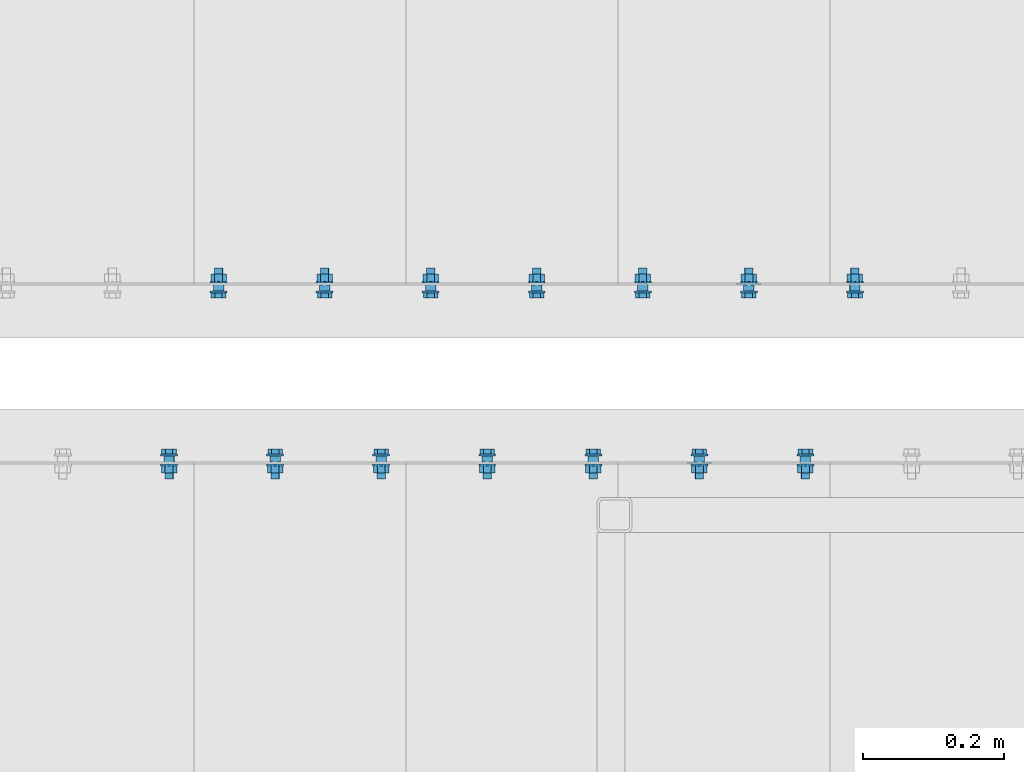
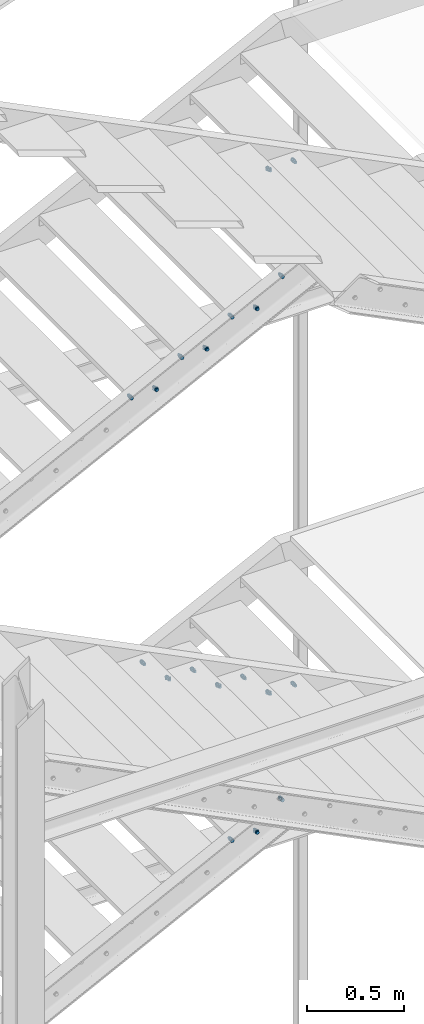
# One storey, part 105 of 132: 19 mechanical fasteners, 11 elements without a shape of their own.
"""IFC2X3 building model written with IfcOpenShell, lengths in millimetres."""

from ifc_helpers import new_model, si_unit, frame, frame_2d, origin_with_axes, origin_2d_with_axis, place, context, subcontext, project, spatial, polyline, circle_curve, parameter, trimmed, segment, composite_curve, circle, outline, extrude, source, transform, mapped, material, type_object, element, aggregate, save


model = new_model("IFC2X3")

# Units and contexts
model_context = context("Model", 3, precision=1e-05, world=origin_with_axes())
body_context = subcontext(model_context, "Body", "Model", "MODEL_VIEW")
ifc_project = project(units=[si_unit("LENGTHUNIT", "METRE", prefix="MILLI"), si_unit("AREAUNIT", "SQUARE_METRE"), si_unit("VOLUMEUNIT", "CUBIC_METRE"), si_unit("MASSUNIT", "GRAM", prefix="KILO"), si_unit("TIMEUNIT", "SECOND"), si_unit("PLANEANGLEUNIT", "RADIAN"), si_unit("SOLIDANGLEUNIT", "STERADIAN"), si_unit("THERMODYNAMICTEMPERATUREUNIT", "DEGREE_CELSIUS"), si_unit("LUMINOUSINTENSITYUNIT", "LUMEN")], contexts=[model_context])

# Site, building, storey
site_placement = place(None, origin_with_axes())
site = spatial("IfcSite", under=ifc_project, at=site_placement, Name="Budowa", CompositionType="ELEMENT")
building_placement = place(site_placement, origin_with_axes())
building = spatial("IfcBuilding", under=site, at=building_placement, Name="Undefined", CompositionType="ELEMENT")
storey_placement = place(building_placement, origin_with_axes())
storey = spatial("IfcBuildingStorey", under=building, at=storey_placement, Name="Undefined", CompositionType="ELEMENT", Elevation=0.0)

# Assembly, mechanical fastener
assembly_1_placement = place(storey_placement, origin_with_axes())
assembly_1 = element("IfcElementAssembly", 1, at=assembly_1_placement, inside=storey, Name="Steel Assembly", AssemblyPlace="NOTDEFINED", PredefinedType="RIGID_FRAME")
ifc_material = material(Name="Undefined")
discrete_accessory_type = type_object("IfcDiscreteAccessoryType", Name="Bolt assembly")
shared_shape_1 = source(origin_with_axes(), body_context, "Body", "SweptSolid", [
    extrude(circle(Radius=7.5, at=origin_2d_with_axis()), frame((0.0, -8.40000000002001, 0.0), z_axis=(0.0, 1.0, 0.0), x_axis=(1.0, 0.0, 0.0)), (0.0, 0.0, 1.0), 8.5),
    extrude(circle(Radius=7.5, at=origin_2d_with_axis()), frame((0.0, -0.1, 0.0), z_axis=(0.0, 1.0, 0.0), x_axis=(1.0, 0.0, 0.0)), (0.0, 0.0, 1.0), 3.1),
    extrude(outline(polyline([(10.39230484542, 0.0), (5.19615242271, 9.00000000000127), (-5.19615242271, 9.00000000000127), (-10.39230484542, 0.0), (-5.19615242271, -9.00000000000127), (5.19615242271, -9.00000000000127), (10.39230484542, 0.0)])), frame((0.0, -18.50000000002, 0.0), z_axis=(0.0, 1.0, 0.0), x_axis=(1.0, 0.0, 0.0)), (0.0, 0.0, 1.0), 7.5),
    extrude(circle(Radius=6.0, at=origin_2d_with_axis()), frame((0.0, -11.00000000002, 0.0), z_axis=(0.0, 1.0, 0.0), x_axis=(1.0, 0.0, 0.0)), (0.0, 0.0, 1.0), 35.0),
    extrude(circle(Radius=12.0, at=origin_2d_with_axis()), frame((0.0, -11.00000000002, 0.0), z_axis=(0.0, 1.0, 0.0), x_axis=(1.0, 0.0, 0.0)), (0.0, 0.0, 1.0), 2.5),
    extrude(circle(Radius=12.0, at=origin_2d_with_axis()), frame((0.0, 3.0, 0.0), z_axis=(0.0, 1.0, 0.0), x_axis=(1.0, 0.0, 0.0)), (0.0, 0.0, 1.0), 2.5),
    extrude(outline(polyline([(10.96965511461, 0.0), (5.484827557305, 9.50000000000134), (-5.484827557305, 9.50000000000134), (-10.96965511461, 0.0), (-5.484827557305, -9.50000000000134), (5.484827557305, -9.50000000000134), (10.96965511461, 0.0)])), frame((0.0, 5.5, 0.0), z_axis=(0.0, 1.0, 0.0), x_axis=(1.0, 0.0, 0.0)), (0.0, 0.0, 1.0), 10.0),
])
mechanical_fastener_1_placement = place(assembly_1_placement, frame((-2020.00000007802, 9275.00000004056, 11150.0000000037), z_axis=(0.0, 0.0, -1.0), x_axis=(1.0, 0.0, 0.0)))
mechanical_fastener_1 = element("IfcMechanicalFastener", 2, at=mechanical_fastener_1_placement, type_object=discrete_accessory_type, material=ifc_material, Name="Bolt assembly", NominalDiameter=12.0, NominalLength=35.0, context=body_context, shape_type="MappedRepresentation", body=[
    mapped(shared_shape_1, transform((265.0, 0.0, 25.0))),
])

assembly_2_placement = place(storey_placement, origin_with_axes())
assembly_2 = element("IfcElementAssembly", 3, at=assembly_2_placement, inside=storey, Name="Steel Assembly", AssemblyPlace="NOTDEFINED", PredefinedType="RIGID_FRAME")
mechanical_fastener_2_placement = place(assembly_2_placement, frame((-1420.0000000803, 9525.0000000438, 10249.9999999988), z_axis=(0.0, 0.0, -1.0), x_axis=(-1.0, 0.0, 0.0)))
mechanical_fastener_2 = element("IfcMechanicalFastener", 4, at=mechanical_fastener_2_placement, type_object=discrete_accessory_type, material=ifc_material, Name="Bolt assembly", NominalDiameter=12.0, NominalLength=35.0, context=body_context, shape_type="MappedRepresentation", body=[
    mapped(shared_shape_1, transform((265.0, 0.0, 25.0))),
])
aggregate(assembly_2, [mechanical_fastener_2])

assembly_3_placement = place(storey_placement, origin_with_axes())
assembly_3 = element("IfcElementAssembly", 5, at=assembly_3_placement, inside=storey, Name="Steel Assembly", AssemblyPlace="NOTDEFINED", PredefinedType="RIGID_FRAME")
mechanical_fastener_3_placement = place(assembly_3_placement, frame((-1720.00000008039, 9525.0000000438, 10099.9999999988), z_axis=(0.0, 0.0, -1.0), x_axis=(-1.0, 0.0, 0.0)))
mechanical_fastener_3 = element("IfcMechanicalFastener", 6, at=mechanical_fastener_3_placement, type_object=discrete_accessory_type, material=ifc_material, Name="Bolt assembly", NominalDiameter=12.0, NominalLength=35.0, context=body_context, shape_type="MappedRepresentation", body=[
    mapped(shared_shape_1, transform((265.0, 0.0, 25.0))),
])

assembly_4_placement = place(storey_placement, origin_with_axes())
assembly_4 = element("IfcElementAssembly", 7, at=assembly_4_placement, inside=storey, Name="Steel Assembly", AssemblyPlace="NOTDEFINED", PredefinedType="RIGID_FRAME")
mechanical_fastener_4_placement = place(assembly_4_placement, frame((-2020.00000008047, 9525.0000000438, 9949.99999999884), z_axis=(0.0, 0.0, -1.0), x_axis=(-1.0, 0.0, 0.0)))
mechanical_fastener_4 = element("IfcMechanicalFastener", 8, at=mechanical_fastener_4_placement, type_object=discrete_accessory_type, material=ifc_material, Name="Bolt assembly", NominalDiameter=12.0, NominalLength=35.0, context=body_context, shape_type="MappedRepresentation", body=[
    mapped(shared_shape_1, transform((265.0, 0.0, 25.0))),
])

assembly_5_placement = place(storey_placement, origin_with_axes())
assembly_5 = element("IfcElementAssembly", 9, at=assembly_5_placement, inside=storey, Name="Steel Assembly", AssemblyPlace="NOTDEFINED", PredefinedType="RIGID_FRAME")
mechanical_fastener_5_placement = place(assembly_5_placement, frame((-2320.00000008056, 9525.0000000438, 9799.99999999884), z_axis=(0.0, 0.0, -1.0), x_axis=(-1.0, 0.0, 0.0)))
mechanical_fastener_5 = element("IfcMechanicalFastener", 10, at=mechanical_fastener_5_placement, type_object=discrete_accessory_type, material=ifc_material, Name="Bolt assembly", NominalDiameter=12.0, NominalLength=35.0, context=body_context, shape_type="MappedRepresentation", body=[
    mapped(shared_shape_1, transform((265.0, 0.0, 25.0))),
])

assembly_6_placement = place(storey_placement, origin_with_axes())
assembly_6 = element("IfcElementAssembly", 11, at=assembly_6_placement, inside=storey, Name="Steel Assembly", AssemblyPlace="NOTDEFINED", PredefinedType="RIGID_FRAME")
mechanical_fastener_6_placement = place(assembly_6_placement, frame((-2920.00000007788, 9275.00000004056, 8300.00000000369), z_axis=(0.0, 0.0, -1.0), x_axis=(1.0, 0.0, 0.0)))
mechanical_fastener_6 = element("IfcMechanicalFastener", 12, at=mechanical_fastener_6_placement, type_object=discrete_accessory_type, material=ifc_material, Name="Bolt assembly", NominalDiameter=12.0, NominalLength=35.0, context=body_context, shape_type="MappedRepresentation", body=[
    mapped(shared_shape_1, transform((265.0, 0.0, 25.0))),
])
aggregate(assembly_6, [mechanical_fastener_6])

assembly_7_placement = place(storey_placement, origin_with_axes())
assembly_7 = element("IfcElementAssembly", 13, at=assembly_7_placement, inside=storey, Name="Steel Assembly", AssemblyPlace="NOTDEFINED", PredefinedType="RIGID_FRAME")
mechanical_fastener_7_placement = place(assembly_7_placement, frame((-2620.00000007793, 9275.00000004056, 8150.00000000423), z_axis=(0.0, 0.0, -1.0), x_axis=(1.0, 0.0, 0.0)))
mechanical_fastener_7 = element("IfcMechanicalFastener", 14, at=mechanical_fastener_7_placement, type_object=discrete_accessory_type, material=ifc_material, Name="Bolt assembly", NominalDiameter=12.0, NominalLength=35.0, context=body_context, shape_type="MappedRepresentation", body=[
    mapped(shared_shape_1, transform((265.0, 0.0, 25.0))),
])

assembly_8_placement = place(storey_placement, origin_with_axes())
assembly_8 = element("IfcElementAssembly", 15, at=assembly_8_placement, inside=storey, Name="Steel Assembly", AssemblyPlace="NOTDEFINED", PredefinedType="RIGID_FRAME")
mechanical_fastener_8_placement = place(assembly_8_placement, frame((-2320.00000007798, 9275.00000004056, 8000.00000000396), z_axis=(0.0, 0.0, -1.0), x_axis=(1.0, 0.0, 0.0)))
mechanical_fastener_8 = element("IfcMechanicalFastener", 16, at=mechanical_fastener_8_placement, type_object=discrete_accessory_type, material=ifc_material, Name="Bolt assembly", NominalDiameter=12.0, NominalLength=35.0, context=body_context, shape_type="MappedRepresentation", body=[
    mapped(shared_shape_1, transform((265.0, 0.0, 25.0))),
])

assembly_9_placement = place(storey_placement, origin_with_axes())
assembly_9 = element("IfcElementAssembly", 17, at=assembly_9_placement, inside=storey, Name="Steel Assembly", AssemblyPlace="NOTDEFINED", PredefinedType="RIGID_FRAME")
mechanical_fastener_9_placement = place(assembly_9_placement, frame((-2020.00000007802, 9275.00000004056, 7850.00000000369), z_axis=(0.0, 0.0, -1.0), x_axis=(1.0, 0.0, 0.0)))
mechanical_fastener_9 = element("IfcMechanicalFastener", 18, at=mechanical_fastener_9_placement, type_object=discrete_accessory_type, material=ifc_material, Name="Bolt assembly", NominalDiameter=12.0, NominalLength=35.0, context=body_context, shape_type="MappedRepresentation", body=[
    mapped(shared_shape_1, transform((265.0, 0.0, 25.0))),
])

assembly_10_placement = place(storey_placement, origin_with_axes())
assembly_10 = element("IfcElementAssembly", 19, at=assembly_10_placement, inside=storey, Name="Steel Assembly", AssemblyPlace="NOTDEFINED", PredefinedType="RIGID_FRAME")
mechanical_fastener_10_placement = place(assembly_10_placement, frame((-1420.00000008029, 9525.0000000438, 6949.99999999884), z_axis=(0.0, 0.0, -1.0), x_axis=(-1.0, 0.0, 0.0)))
mechanical_fastener_10 = element("IfcMechanicalFastener", 20, at=mechanical_fastener_10_placement, type_object=discrete_accessory_type, material=ifc_material, Name="Bolt assembly", NominalDiameter=12.0, NominalLength=35.0, context=body_context, shape_type="MappedRepresentation", body=[
    mapped(shared_shape_1, transform((265.0, 0.0, 25.0))),
])
aggregate(assembly_10, [mechanical_fastener_10])

assembly_11_placement = place(storey_placement, origin_with_axes())
assembly_11 = element("IfcElementAssembly", 21, at=assembly_11_placement, inside=storey, Name="Steel Assembly", AssemblyPlace="NOTDEFINED", PredefinedType="RIGID_FRAME")
mechanical_fastener_11_placement = place(assembly_11_placement, frame((-1720.00000008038, 9525.0000000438, 6799.99999999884), z_axis=(0.0, 0.0, -1.0), x_axis=(-1.0, 0.0, 0.0)))
mechanical_fastener_11 = element("IfcMechanicalFastener", 22, at=mechanical_fastener_11_placement, type_object=discrete_accessory_type, material=ifc_material, Name="Bolt assembly", NominalDiameter=12.0, NominalLength=35.0, context=body_context, shape_type="MappedRepresentation", body=[
    mapped(shared_shape_1, transform((265.0, 0.0, 25.0))),
])

# Mechanical fastener
shared_shape_2 = source(origin_with_axes(), body_context, "Body", "SweptSolid", [
    extrude(circle(Radius=7.5, at=origin_2d_with_axis()), frame((0.0, -8.40000000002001, 0.0), z_axis=(0.0, 1.0, 0.0), x_axis=(1.0, 0.0, 0.0)), (0.0, 0.0, 1.0), 8.5),
    extrude(outline(composite_curve([segment(polyline([(-10.0, 7.5), (10.0, 7.5)]), True, "CONTINUOUS"), segment(trimmed(circle_curve(frame_2d((10.0, 0.0), x_axis=(0.0, 1.0)), 7.5), [parameter(0.0)], [parameter(3.14159265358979)], False, "PARAMETER"), True, "CONTINUOUS"), segment(polyline([(10.0, -7.5), (-10.0, -7.5)]), True, "CONTINUOUS"), segment(trimmed(circle_curve(frame_2d((-10.0, 0.0), x_axis=(0.0, -1.0)), 7.5), [parameter(0.0)], [parameter(3.14159265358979)], False, "PARAMETER"), True, "DISCONTINUOUS")], self_intersect=False)), frame((0.0, -0.1, 0.0), z_axis=(0.0, 1.0, 0.0), x_axis=(1.0, 0.0, 0.0)), (0.0, 0.0, 1.0), 3.1),
    extrude(outline(polyline([(10.39230484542, 0.0), (5.19615242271, 9.00000000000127), (-5.19615242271, 9.00000000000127), (-10.39230484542, 0.0), (-5.19615242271, -9.00000000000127), (5.19615242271, -9.00000000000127), (10.39230484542, 0.0)])), frame((0.0, -18.50000000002, 0.0), z_axis=(0.0, 1.0, 0.0), x_axis=(1.0, 0.0, 0.0)), (0.0, 0.0, 1.0), 7.5),
    extrude(circle(Radius=6.0, at=origin_2d_with_axis()), frame((0.0, -11.00000000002, 0.0), z_axis=(0.0, 1.0, 0.0), x_axis=(1.0, 0.0, 0.0)), (0.0, 0.0, 1.0), 35.0),
    extrude(circle(Radius=12.0, at=origin_2d_with_axis()), frame((0.0, -11.00000000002, 0.0), z_axis=(0.0, 1.0, 0.0), x_axis=(1.0, 0.0, 0.0)), (0.0, 0.0, 1.0), 2.5),
    extrude(circle(Radius=12.0, at=origin_2d_with_axis()), frame((0.0, 3.0, 0.0), z_axis=(0.0, 1.0, 0.0), x_axis=(1.0, 0.0, 0.0)), (0.0, 0.0, 1.0), 2.5),
    extrude(outline(polyline([(10.96965511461, 0.0), (5.484827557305, 9.50000000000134), (-5.484827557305, 9.50000000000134), (-10.96965511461, 0.0), (-5.484827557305, -9.50000000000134), (5.484827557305, -9.50000000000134), (10.96965511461, 0.0)])), frame((0.0, 5.5, 0.0), z_axis=(0.0, 1.0, 0.0), x_axis=(1.0, 0.0, 0.0)), (0.0, 0.0, 1.0), 10.0),
])
mechanical_fastener_12_placement = place(assembly_1_placement, frame((-2020.00000007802, 9275.00000004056, 11150.0000000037), z_axis=(0.0, 0.0, -1.0), x_axis=(1.0, 0.0, 0.0)))
mechanical_fastener_12 = element("IfcMechanicalFastener", 23, at=mechanical_fastener_12_placement, type_object=discrete_accessory_type, material=ifc_material, Name="Bolt assembly", NominalDiameter=12.0, NominalLength=35.0, context=body_context, shape_type="MappedRepresentation", body=[
    mapped(shared_shape_2, transform((115.0, 0.0, 25.0))),
])

aggregate(assembly_1, [mechanical_fastener_12, mechanical_fastener_1])

shared_shape_3 = source(origin_with_axes(), body_context, "Body", "SweptSolid", [
    extrude(circle(Radius=7.5, at=origin_2d_with_axis()), frame((0.0, -8.40000000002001, 0.0), z_axis=(0.0, 1.0, 0.0), x_axis=(1.0, 0.0, 0.0)), (0.0, 0.0, 1.0), 8.5),
    extrude(outline(composite_curve([segment(polyline([(-10.0, 7.5), (10.0, 7.5)]), True, "CONTINUOUS"), segment(trimmed(circle_curve(frame_2d((10.0, 0.0), x_axis=(0.0, 1.0)), 7.5), [parameter(0.0)], [parameter(3.14159265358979)], False, "PARAMETER"), True, "CONTINUOUS"), segment(polyline([(10.0, -7.5), (-10.0, -7.5)]), True, "CONTINUOUS"), segment(trimmed(circle_curve(frame_2d((-10.0, 0.0), x_axis=(0.0, -1.0)), 7.5), [parameter(0.0)], [parameter(3.14159265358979)], False, "PARAMETER"), True, "DISCONTINUOUS")], self_intersect=False)), frame((0.0, -0.1, 0.0), z_axis=(0.0, 1.0, 0.0), x_axis=(1.0, 0.0, 0.0)), (0.0, 0.0, 1.0), 3.1),
    extrude(outline(polyline([(10.39230484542, 0.0), (5.19615242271, 9.00000000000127), (-5.19615242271, 9.00000000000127), (-10.39230484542, 0.0), (-5.19615242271, -9.00000000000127), (5.19615242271, -9.00000000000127), (10.39230484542, 0.0)])), frame((0.0, -18.50000000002, 0.0), z_axis=(0.0, 1.0, 0.0), x_axis=(1.0, 0.0, 0.0)), (0.0, 0.0, 1.0), 7.5),
    extrude(circle(Radius=6.0, at=origin_2d_with_axis()), frame((0.0, -11.00000000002, 0.0), z_axis=(0.0, 1.0, 0.0), x_axis=(1.0, 0.0, 0.0)), (0.0, 0.0, 1.0), 35.0),
    extrude(circle(Radius=12.0, at=origin_2d_with_axis()), frame((0.0, -11.00000000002, 0.0), z_axis=(0.0, 1.0, 0.0), x_axis=(1.0, 0.0, 0.0)), (0.0, 0.0, 1.0), 2.5),
    extrude(circle(Radius=12.0, at=origin_2d_with_axis()), frame((0.0, 3.0, 0.0), z_axis=(0.0, 1.0, 0.0), x_axis=(1.0, 0.0, 0.0)), (0.0, 0.0, 1.0), 2.5),
    extrude(outline(polyline([(10.96965511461, 0.0), (5.484827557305, 9.50000000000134), (-5.484827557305, 9.50000000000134), (-10.96965511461, 0.0), (-5.484827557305, -9.50000000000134), (5.484827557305, -9.50000000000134), (10.96965511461, 0.0)])), frame((0.0, 5.5, 0.0), z_axis=(0.0, 1.0, 0.0), x_axis=(1.0, 0.0, 0.0)), (0.0, 0.0, 1.0), 10.0),
])
mechanical_fastener_13_placement = place(assembly_3_placement, frame((-1720.00000008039, 9525.0000000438, 10099.9999999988), z_axis=(0.0, 0.0, -1.0), x_axis=(-1.0, 0.0, 0.0)))
mechanical_fastener_13 = element("IfcMechanicalFastener", 24, at=mechanical_fastener_13_placement, type_object=discrete_accessory_type, material=ifc_material, Name="Bolt assembly", NominalDiameter=12.0, NominalLength=35.0, context=body_context, shape_type="MappedRepresentation", body=[
    mapped(shared_shape_3, transform((115.0, 0.0, 25.0))),
])

aggregate(assembly_3, [mechanical_fastener_13, mechanical_fastener_3])

shared_shape_4 = source(origin_with_axes(), body_context, "Body", "SweptSolid", [
    extrude(circle(Radius=7.5, at=origin_2d_with_axis()), frame((0.0, -8.40000000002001, 0.0), z_axis=(0.0, 1.0, 0.0), x_axis=(1.0, 0.0, 0.0)), (0.0, 0.0, 1.0), 8.5),
    extrude(outline(composite_curve([segment(polyline([(-10.0, 7.5), (10.0, 7.5)]), True, "CONTINUOUS"), segment(trimmed(circle_curve(frame_2d((10.0, 0.0), x_axis=(0.0, 1.0)), 7.5), [parameter(0.0)], [parameter(3.14159265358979)], False, "PARAMETER"), True, "CONTINUOUS"), segment(polyline([(10.0, -7.5), (-10.0, -7.5)]), True, "CONTINUOUS"), segment(trimmed(circle_curve(frame_2d((-10.0, 0.0), x_axis=(0.0, -1.0)), 7.5), [parameter(0.0)], [parameter(3.14159265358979)], False, "PARAMETER"), True, "DISCONTINUOUS")], self_intersect=False)), frame((0.0, -0.1, 0.0), z_axis=(0.0, 1.0, 0.0), x_axis=(1.0, 0.0, 0.0)), (0.0, 0.0, 1.0), 3.1),
    extrude(outline(polyline([(10.39230484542, 0.0), (5.19615242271, 9.00000000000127), (-5.19615242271, 9.00000000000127), (-10.39230484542, 0.0), (-5.19615242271, -9.00000000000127), (5.19615242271, -9.00000000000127), (10.39230484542, 0.0)])), frame((0.0, -18.50000000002, 0.0), z_axis=(0.0, 1.0, 0.0), x_axis=(1.0, 0.0, 0.0)), (0.0, 0.0, 1.0), 7.5),
    extrude(circle(Radius=6.0, at=origin_2d_with_axis()), frame((0.0, -11.00000000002, 0.0), z_axis=(0.0, 1.0, 0.0), x_axis=(1.0, 0.0, 0.0)), (0.0, 0.0, 1.0), 35.0),
    extrude(circle(Radius=12.0, at=origin_2d_with_axis()), frame((0.0, -11.00000000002, 0.0), z_axis=(0.0, 1.0, 0.0), x_axis=(1.0, 0.0, 0.0)), (0.0, 0.0, 1.0), 2.5),
    extrude(circle(Radius=12.0, at=origin_2d_with_axis()), frame((0.0, 3.0, 0.0), z_axis=(0.0, 1.0, 0.0), x_axis=(1.0, 0.0, 0.0)), (0.0, 0.0, 1.0), 2.5),
    extrude(outline(polyline([(10.96965511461, 0.0), (5.484827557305, 9.50000000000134), (-5.484827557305, 9.50000000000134), (-10.96965511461, 0.0), (-5.484827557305, -9.50000000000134), (5.484827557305, -9.50000000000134), (10.96965511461, 0.0)])), frame((0.0, 5.5, 0.0), z_axis=(0.0, 1.0, 0.0), x_axis=(1.0, 0.0, 0.0)), (0.0, 0.0, 1.0), 10.0),
])
mechanical_fastener_14_placement = place(assembly_4_placement, frame((-2020.00000008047, 9525.0000000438, 9949.99999999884), z_axis=(0.0, 0.0, -1.0), x_axis=(-1.0, 0.0, 0.0)))
mechanical_fastener_14 = element("IfcMechanicalFastener", 25, at=mechanical_fastener_14_placement, type_object=discrete_accessory_type, material=ifc_material, Name="Bolt assembly", NominalDiameter=12.0, NominalLength=35.0, context=body_context, shape_type="MappedRepresentation", body=[
    mapped(shared_shape_4, transform((115.0, 0.0, 25.0))),
])

aggregate(assembly_4, [mechanical_fastener_14, mechanical_fastener_4])

shared_shape_5 = source(origin_with_axes(), body_context, "Body", "SweptSolid", [
    extrude(circle(Radius=7.5, at=origin_2d_with_axis()), frame((0.0, -8.40000000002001, 0.0), z_axis=(0.0, 1.0, 0.0), x_axis=(1.0, 0.0, 0.0)), (0.0, 0.0, 1.0), 8.5),
    extrude(outline(composite_curve([segment(polyline([(-10.0, 7.5), (10.0, 7.5)]), True, "CONTINUOUS"), segment(trimmed(circle_curve(frame_2d((10.0, 0.0), x_axis=(0.0, 1.0)), 7.5), [parameter(0.0)], [parameter(3.14159265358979)], False, "PARAMETER"), True, "CONTINUOUS"), segment(polyline([(10.0, -7.5), (-10.0, -7.5)]), True, "CONTINUOUS"), segment(trimmed(circle_curve(frame_2d((-10.0, 0.0), x_axis=(0.0, -1.0)), 7.5), [parameter(0.0)], [parameter(3.14159265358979)], False, "PARAMETER"), True, "DISCONTINUOUS")], self_intersect=False)), frame((0.0, -0.1, 0.0), z_axis=(0.0, 1.0, 0.0), x_axis=(1.0, 0.0, 0.0)), (0.0, 0.0, 1.0), 3.1),
    extrude(outline(polyline([(10.39230484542, 0.0), (5.19615242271, 9.00000000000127), (-5.19615242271, 9.00000000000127), (-10.39230484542, 0.0), (-5.19615242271, -9.00000000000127), (5.19615242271, -9.00000000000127), (10.39230484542, 0.0)])), frame((0.0, -18.50000000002, 0.0), z_axis=(0.0, 1.0, 0.0), x_axis=(1.0, 0.0, 0.0)), (0.0, 0.0, 1.0), 7.5),
    extrude(circle(Radius=6.0, at=origin_2d_with_axis()), frame((0.0, -11.00000000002, 0.0), z_axis=(0.0, 1.0, 0.0), x_axis=(1.0, 0.0, 0.0)), (0.0, 0.0, 1.0), 35.0),
    extrude(circle(Radius=12.0, at=origin_2d_with_axis()), frame((0.0, -11.00000000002, 0.0), z_axis=(0.0, 1.0, 0.0), x_axis=(1.0, 0.0, 0.0)), (0.0, 0.0, 1.0), 2.5),
    extrude(circle(Radius=12.0, at=origin_2d_with_axis()), frame((0.0, 3.0, 0.0), z_axis=(0.0, 1.0, 0.0), x_axis=(1.0, 0.0, 0.0)), (0.0, 0.0, 1.0), 2.5),
    extrude(outline(polyline([(10.96965511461, 0.0), (5.484827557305, 9.50000000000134), (-5.484827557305, 9.50000000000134), (-10.96965511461, 0.0), (-5.484827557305, -9.50000000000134), (5.484827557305, -9.50000000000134), (10.96965511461, 0.0)])), frame((0.0, 5.5, 0.0), z_axis=(0.0, 1.0, 0.0), x_axis=(1.0, 0.0, 0.0)), (0.0, 0.0, 1.0), 10.0),
])
mechanical_fastener_15_placement = place(assembly_5_placement, frame((-2320.00000008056, 9525.0000000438, 9799.99999999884), z_axis=(0.0, 0.0, -1.0), x_axis=(-1.0, 0.0, 0.0)))
mechanical_fastener_15 = element("IfcMechanicalFastener", 26, at=mechanical_fastener_15_placement, type_object=discrete_accessory_type, material=ifc_material, Name="Bolt assembly", NominalDiameter=12.0, NominalLength=35.0, context=body_context, shape_type="MappedRepresentation", body=[
    mapped(shared_shape_5, transform((115.0, 0.0, 25.0))),
])

aggregate(assembly_5, [mechanical_fastener_15, mechanical_fastener_5])

shared_shape_6 = source(origin_with_axes(), body_context, "Body", "SweptSolid", [
    extrude(circle(Radius=7.5, at=origin_2d_with_axis()), frame((0.0, -8.40000000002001, 0.0), z_axis=(0.0, 1.0, 0.0), x_axis=(1.0, 0.0, 0.0)), (0.0, 0.0, 1.0), 8.5),
    extrude(outline(composite_curve([segment(polyline([(-10.0, 7.5), (10.0, 7.5)]), True, "CONTINUOUS"), segment(trimmed(circle_curve(frame_2d((10.0, 0.0), x_axis=(0.0, 1.0)), 7.5), [parameter(0.0)], [parameter(3.14159265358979)], False, "PARAMETER"), True, "CONTINUOUS"), segment(polyline([(10.0, -7.5), (-10.0, -7.5)]), True, "CONTINUOUS"), segment(trimmed(circle_curve(frame_2d((-10.0, 0.0), x_axis=(0.0, -1.0)), 7.5), [parameter(0.0)], [parameter(3.14159265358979)], False, "PARAMETER"), True, "DISCONTINUOUS")], self_intersect=False)), frame((0.0, -0.1, 0.0), z_axis=(0.0, 1.0, 0.0), x_axis=(1.0, 0.0, 0.0)), (0.0, 0.0, 1.0), 3.1),
    extrude(outline(polyline([(10.39230484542, 0.0), (5.19615242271, 9.00000000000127), (-5.19615242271, 9.00000000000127), (-10.39230484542, 0.0), (-5.19615242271, -9.00000000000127), (5.19615242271, -9.00000000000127), (10.39230484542, 0.0)])), frame((0.0, -18.50000000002, 0.0), z_axis=(0.0, 1.0, 0.0), x_axis=(1.0, 0.0, 0.0)), (0.0, 0.0, 1.0), 7.5),
    extrude(circle(Radius=6.0, at=origin_2d_with_axis()), frame((0.0, -11.00000000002, 0.0), z_axis=(0.0, 1.0, 0.0), x_axis=(1.0, 0.0, 0.0)), (0.0, 0.0, 1.0), 35.0),
    extrude(circle(Radius=12.0, at=origin_2d_with_axis()), frame((0.0, -11.00000000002, 0.0), z_axis=(0.0, 1.0, 0.0), x_axis=(1.0, 0.0, 0.0)), (0.0, 0.0, 1.0), 2.5),
    extrude(circle(Radius=12.0, at=origin_2d_with_axis()), frame((0.0, 3.0, 0.0), z_axis=(0.0, 1.0, 0.0), x_axis=(1.0, 0.0, 0.0)), (0.0, 0.0, 1.0), 2.5),
    extrude(outline(polyline([(10.96965511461, 0.0), (5.484827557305, 9.50000000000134), (-5.484827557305, 9.50000000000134), (-10.96965511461, 0.0), (-5.484827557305, -9.50000000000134), (5.484827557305, -9.50000000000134), (10.96965511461, 0.0)])), frame((0.0, 5.5, 0.0), z_axis=(0.0, 1.0, 0.0), x_axis=(1.0, 0.0, 0.0)), (0.0, 0.0, 1.0), 10.0),
])
mechanical_fastener_16_placement = place(assembly_7_placement, frame((-2620.00000007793, 9275.00000004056, 8150.00000000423), z_axis=(0.0, 0.0, -1.0), x_axis=(1.0, 0.0, 0.0)))
mechanical_fastener_16 = element("IfcMechanicalFastener", 27, at=mechanical_fastener_16_placement, type_object=discrete_accessory_type, material=ifc_material, Name="Bolt assembly", NominalDiameter=12.0, NominalLength=35.0, context=body_context, shape_type="MappedRepresentation", body=[
    mapped(shared_shape_6, transform((115.0, 0.0, 25.0))),
])

aggregate(assembly_7, [mechanical_fastener_16, mechanical_fastener_7])

shared_shape_7 = source(origin_with_axes(), body_context, "Body", "SweptSolid", [
    extrude(circle(Radius=7.5, at=origin_2d_with_axis()), frame((0.0, -8.40000000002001, 0.0), z_axis=(0.0, 1.0, 0.0), x_axis=(1.0, 0.0, 0.0)), (0.0, 0.0, 1.0), 8.5),
    extrude(outline(composite_curve([segment(polyline([(-10.0, 7.5), (10.0, 7.5)]), True, "CONTINUOUS"), segment(trimmed(circle_curve(frame_2d((10.0, 0.0), x_axis=(0.0, 1.0)), 7.5), [parameter(0.0)], [parameter(3.14159265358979)], False, "PARAMETER"), True, "CONTINUOUS"), segment(polyline([(10.0, -7.5), (-10.0, -7.5)]), True, "CONTINUOUS"), segment(trimmed(circle_curve(frame_2d((-10.0, 0.0), x_axis=(0.0, -1.0)), 7.5), [parameter(0.0)], [parameter(3.14159265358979)], False, "PARAMETER"), True, "DISCONTINUOUS")], self_intersect=False)), frame((0.0, -0.1, 0.0), z_axis=(0.0, 1.0, 0.0), x_axis=(1.0, 0.0, 0.0)), (0.0, 0.0, 1.0), 3.1),
    extrude(outline(polyline([(10.39230484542, 0.0), (5.19615242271, 9.00000000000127), (-5.19615242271, 9.00000000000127), (-10.39230484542, 0.0), (-5.19615242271, -9.00000000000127), (5.19615242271, -9.00000000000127), (10.39230484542, 0.0)])), frame((0.0, -18.50000000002, 0.0), z_axis=(0.0, 1.0, 0.0), x_axis=(1.0, 0.0, 0.0)), (0.0, 0.0, 1.0), 7.5),
    extrude(circle(Radius=6.0, at=origin_2d_with_axis()), frame((0.0, -11.00000000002, 0.0), z_axis=(0.0, 1.0, 0.0), x_axis=(1.0, 0.0, 0.0)), (0.0, 0.0, 1.0), 35.0),
    extrude(circle(Radius=12.0, at=origin_2d_with_axis()), frame((0.0, -11.00000000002, 0.0), z_axis=(0.0, 1.0, 0.0), x_axis=(1.0, 0.0, 0.0)), (0.0, 0.0, 1.0), 2.5),
    extrude(circle(Radius=12.0, at=origin_2d_with_axis()), frame((0.0, 3.0, 0.0), z_axis=(0.0, 1.0, 0.0), x_axis=(1.0, 0.0, 0.0)), (0.0, 0.0, 1.0), 2.5),
    extrude(outline(polyline([(10.96965511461, 0.0), (5.484827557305, 9.50000000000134), (-5.484827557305, 9.50000000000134), (-10.96965511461, 0.0), (-5.484827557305, -9.50000000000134), (5.484827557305, -9.50000000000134), (10.96965511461, 0.0)])), frame((0.0, 5.5, 0.0), z_axis=(0.0, 1.0, 0.0), x_axis=(1.0, 0.0, 0.0)), (0.0, 0.0, 1.0), 10.0),
])
mechanical_fastener_17_placement = place(assembly_8_placement, frame((-2320.00000007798, 9275.00000004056, 8000.00000000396), z_axis=(0.0, 0.0, -1.0), x_axis=(1.0, 0.0, 0.0)))
mechanical_fastener_17 = element("IfcMechanicalFastener", 28, at=mechanical_fastener_17_placement, type_object=discrete_accessory_type, material=ifc_material, Name="Bolt assembly", NominalDiameter=12.0, NominalLength=35.0, context=body_context, shape_type="MappedRepresentation", body=[
    mapped(shared_shape_7, transform((115.0, 0.0, 25.0))),
])

aggregate(assembly_8, [mechanical_fastener_17, mechanical_fastener_8])

shared_shape_8 = source(origin_with_axes(), body_context, "Body", "SweptSolid", [
    extrude(circle(Radius=7.5, at=origin_2d_with_axis()), frame((0.0, -8.40000000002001, 0.0), z_axis=(0.0, 1.0, 0.0), x_axis=(1.0, 0.0, 0.0)), (0.0, 0.0, 1.0), 8.5),
    extrude(outline(composite_curve([segment(polyline([(-10.0, 7.5), (10.0, 7.5)]), True, "CONTINUOUS"), segment(trimmed(circle_curve(frame_2d((10.0, 0.0), x_axis=(0.0, 1.0)), 7.5), [parameter(0.0)], [parameter(3.14159265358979)], False, "PARAMETER"), True, "CONTINUOUS"), segment(polyline([(10.0, -7.5), (-10.0, -7.5)]), True, "CONTINUOUS"), segment(trimmed(circle_curve(frame_2d((-10.0, 0.0), x_axis=(0.0, -1.0)), 7.5), [parameter(0.0)], [parameter(3.14159265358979)], False, "PARAMETER"), True, "DISCONTINUOUS")], self_intersect=False)), frame((0.0, -0.1, 0.0), z_axis=(0.0, 1.0, 0.0), x_axis=(1.0, 0.0, 0.0)), (0.0, 0.0, 1.0), 3.1),
    extrude(outline(polyline([(10.39230484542, 0.0), (5.19615242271, 9.00000000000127), (-5.19615242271, 9.00000000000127), (-10.39230484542, 0.0), (-5.19615242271, -9.00000000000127), (5.19615242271, -9.00000000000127), (10.39230484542, 0.0)])), frame((0.0, -18.50000000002, 0.0), z_axis=(0.0, 1.0, 0.0), x_axis=(1.0, 0.0, 0.0)), (0.0, 0.0, 1.0), 7.5),
    extrude(circle(Radius=6.0, at=origin_2d_with_axis()), frame((0.0, -11.00000000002, 0.0), z_axis=(0.0, 1.0, 0.0), x_axis=(1.0, 0.0, 0.0)), (0.0, 0.0, 1.0), 35.0),
    extrude(circle(Radius=12.0, at=origin_2d_with_axis()), frame((0.0, -11.00000000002, 0.0), z_axis=(0.0, 1.0, 0.0), x_axis=(1.0, 0.0, 0.0)), (0.0, 0.0, 1.0), 2.5),
    extrude(circle(Radius=12.0, at=origin_2d_with_axis()), frame((0.0, 3.0, 0.0), z_axis=(0.0, 1.0, 0.0), x_axis=(1.0, 0.0, 0.0)), (0.0, 0.0, 1.0), 2.5),
    extrude(outline(polyline([(10.96965511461, 0.0), (5.484827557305, 9.50000000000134), (-5.484827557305, 9.50000000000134), (-10.96965511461, 0.0), (-5.484827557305, -9.50000000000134), (5.484827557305, -9.50000000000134), (10.96965511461, 0.0)])), frame((0.0, 5.5, 0.0), z_axis=(0.0, 1.0, 0.0), x_axis=(1.0, 0.0, 0.0)), (0.0, 0.0, 1.0), 10.0),
])
mechanical_fastener_18_placement = place(assembly_9_placement, frame((-2020.00000007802, 9275.00000004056, 7850.00000000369), z_axis=(0.0, 0.0, -1.0), x_axis=(1.0, 0.0, 0.0)))
mechanical_fastener_18 = element("IfcMechanicalFastener", 29, at=mechanical_fastener_18_placement, type_object=discrete_accessory_type, material=ifc_material, Name="Bolt assembly", NominalDiameter=12.0, NominalLength=35.0, context=body_context, shape_type="MappedRepresentation", body=[
    mapped(shared_shape_8, transform((115.0, 0.0, 25.0))),
])

aggregate(assembly_9, [mechanical_fastener_18, mechanical_fastener_9])

shared_shape_9 = source(origin_with_axes(), body_context, "Body", "SweptSolid", [
    extrude(circle(Radius=7.5, at=origin_2d_with_axis()), frame((0.0, -8.40000000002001, 0.0), z_axis=(0.0, 1.0, 0.0), x_axis=(1.0, 0.0, 0.0)), (0.0, 0.0, 1.0), 8.5),
    extrude(outline(composite_curve([segment(polyline([(-10.0, 7.5), (10.0, 7.5)]), True, "CONTINUOUS"), segment(trimmed(circle_curve(frame_2d((10.0, 0.0), x_axis=(0.0, 1.0)), 7.5), [parameter(0.0)], [parameter(3.14159265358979)], False, "PARAMETER"), True, "CONTINUOUS"), segment(polyline([(10.0, -7.5), (-10.0, -7.5)]), True, "CONTINUOUS"), segment(trimmed(circle_curve(frame_2d((-10.0, 0.0), x_axis=(0.0, -1.0)), 7.5), [parameter(0.0)], [parameter(3.14159265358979)], False, "PARAMETER"), True, "DISCONTINUOUS")], self_intersect=False)), frame((0.0, -0.1, 0.0), z_axis=(0.0, 1.0, 0.0), x_axis=(1.0, 0.0, 0.0)), (0.0, 0.0, 1.0), 3.1),
    extrude(outline(polyline([(10.39230484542, 0.0), (5.19615242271, 9.00000000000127), (-5.19615242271, 9.00000000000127), (-10.39230484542, 0.0), (-5.19615242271, -9.00000000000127), (5.19615242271, -9.00000000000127), (10.39230484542, 0.0)])), frame((0.0, -18.50000000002, 0.0), z_axis=(0.0, 1.0, 0.0), x_axis=(1.0, 0.0, 0.0)), (0.0, 0.0, 1.0), 7.5),
    extrude(circle(Radius=6.0, at=origin_2d_with_axis()), frame((0.0, -11.00000000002, 0.0), z_axis=(0.0, 1.0, 0.0), x_axis=(1.0, 0.0, 0.0)), (0.0, 0.0, 1.0), 35.0),
    extrude(circle(Radius=12.0, at=origin_2d_with_axis()), frame((0.0, -11.00000000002, 0.0), z_axis=(0.0, 1.0, 0.0), x_axis=(1.0, 0.0, 0.0)), (0.0, 0.0, 1.0), 2.5),
    extrude(circle(Radius=12.0, at=origin_2d_with_axis()), frame((0.0, 3.0, 0.0), z_axis=(0.0, 1.0, 0.0), x_axis=(1.0, 0.0, 0.0)), (0.0, 0.0, 1.0), 2.5),
    extrude(outline(polyline([(10.96965511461, 0.0), (5.484827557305, 9.50000000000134), (-5.484827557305, 9.50000000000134), (-10.96965511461, 0.0), (-5.484827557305, -9.50000000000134), (5.484827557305, -9.50000000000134), (10.96965511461, 0.0)])), frame((0.0, 5.5, 0.0), z_axis=(0.0, 1.0, 0.0), x_axis=(1.0, 0.0, 0.0)), (0.0, 0.0, 1.0), 10.0),
])
mechanical_fastener_19_placement = place(assembly_11_placement, frame((-1720.00000008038, 9525.0000000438, 6799.99999999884), z_axis=(0.0, 0.0, -1.0), x_axis=(-1.0, 0.0, 0.0)))
mechanical_fastener_19 = element("IfcMechanicalFastener", 30, at=mechanical_fastener_19_placement, type_object=discrete_accessory_type, material=ifc_material, Name="Bolt assembly", NominalDiameter=12.0, NominalLength=35.0, context=body_context, shape_type="MappedRepresentation", body=[
    mapped(shared_shape_9, transform((115.0, 0.0, 25.0))),
])

aggregate(assembly_11, [mechanical_fastener_19, mechanical_fastener_11])

save(model, "model.ifc")
